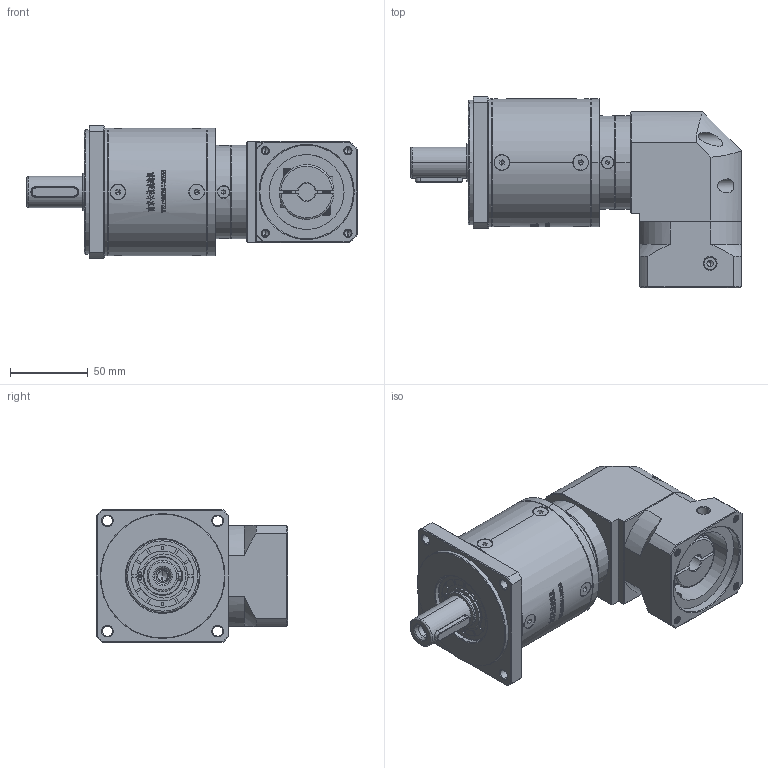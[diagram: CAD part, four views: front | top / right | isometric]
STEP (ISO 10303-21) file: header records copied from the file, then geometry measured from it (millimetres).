
FILE_DESCRIPTION (( 'STEP AP214' ), '1' );
FILE_NAME ('ZFR80-D20-L3-11-60-75-M5.step', '2022-05-08T14:51:02', ( '' ), ( 'Microsoft' ), 'SwSTEP 2.0', 'SolidWorks 2016', '' );
FILE_SCHEMA (( 'AUTOMOTIVE_DESIGN' ));
Length unit declared in the file: millimetre
Products named in the file (1): ZFR80-D20-L3-11-60-75-M5
Bounding box: 212 x 122.7 x 85 mm (x, y, z)
Volume: 903218.6 mm3; surface area: 109113.9 mm2
Topology: 17 solids, 18 shells, 3078 faces, 8189 edges, 5268 vertices
Faces by surface type: plane 1601, bspline 620, cylinder 468, cone 381, torus 8
Entity records: 165944 total; most frequent: CARTESIAN_POINT 60947, ORIENTED_EDGE 16286, DIRECTION 12362, EDGE_CURVE 8143, VERTEX_POINT 5268, LINE 4988, VECTOR 4988, AXIS2_PLACEMENT_3D 3687
